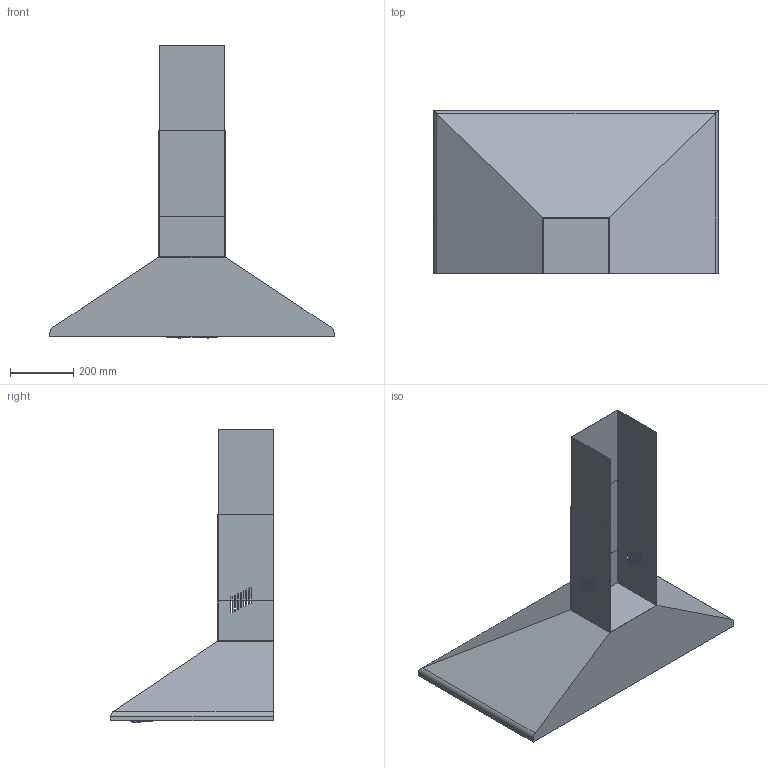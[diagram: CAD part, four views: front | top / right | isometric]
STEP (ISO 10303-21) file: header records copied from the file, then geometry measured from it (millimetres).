
FILE_DESCRIPTION(('CATIA V5 STEP Exchange'),'2;1');
FILE_NAME('\\sr02\Apell\Disegni\DISEGNI\SMEG\CAPPE\KSED95XE\Assiemi\BIM\KSED95XE.stp','2017-12-28T14:41:22+00:00',('none'),('none'),'CATIA Version 5-6 Release 2014','CATIA V5 STEP AP203','none');
FILE_SCHEMA(('CONFIG_CONTROL_DESIGN'));
Length unit declared in the file: millimetre
Products named in the file (1): Assieme
Bounding box: 898 x 514 x 928 mm (x, y, z)
Volume: 59006853.8 mm3; surface area: 2610776.5 mm2
Topology: 10 solids, 10 shells, 195 faces, 522 edges, 348 vertices
Faces by surface type: plane 182, cylinder 13
Entity records: 5753 total; most frequent: ORIENTED_EDGE 1044, CARTESIAN_POINT 1034, DIRECTION 767, EDGE_CURVE 522, VECTOR 485, LINE 485, VERTEX_POINT 348, EDGE_LOOP 244
